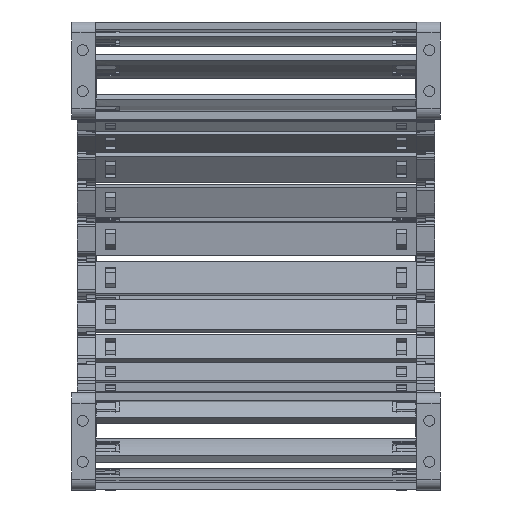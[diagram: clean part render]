
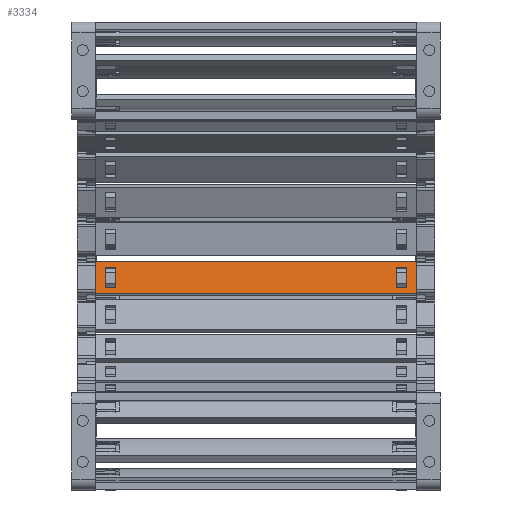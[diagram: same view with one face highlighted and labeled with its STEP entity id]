
A CAD part, left-side view. The second image highlights one B-rep face of the part: STEP entity #3334.
In plain terms, the highlighted planar face has unit normal (-0.988, 0, 0.156) as drawn and (0, 0, -1) by its records, which use the part's own axes.
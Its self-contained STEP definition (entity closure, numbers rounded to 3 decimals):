
#2814=DIRECTION('',(-1.,0.,0.));
#2815=VECTOR('',#2814,18.);
#2816=CARTESIAN_POINT('',(9.,-150.75,0.));
#2817=LINE('',#2816,#2815);
#2852=DIRECTION('',(0.,1.,0.));
#2853=VECTOR('',#2852,5.56);
#2854=CARTESIAN_POINT('',(-5.55,14.2,0.));
#2855=LINE('',#2854,#2853);
#2856=DIRECTION('',(1.,0.,0.));
#2857=VECTOR('',#2856,11.1);
#2858=CARTESIAN_POINT('',(-5.55,19.76,0.));
#2859=LINE('',#2858,#2857);
#2860=DIRECTION('',(0.,-1.,0.));
#2861=VECTOR('',#2860,5.56);
#2862=CARTESIAN_POINT('',(5.55,19.76,0.));
#2863=LINE('',#2862,#2861);
#2864=DIRECTION('',(-1.,0.,0.));
#2865=VECTOR('',#2864,11.1);
#2866=CARTESIAN_POINT('',(5.55,14.2,0.));
#2867=LINE('',#2866,#2865);
#2872=DIRECTION('',(1.,0.,0.));
#2873=VECTOR('',#2872,18.);
#2874=CARTESIAN_POINT('',(-9.,25.25,0.));
#2875=LINE('',#2874,#2873);
#2906=DIRECTION('',(0.,1.,0.));
#2907=VECTOR('',#2906,176.);
#2908=CARTESIAN_POINT('',(-9.,-150.75,0.));
#2909=LINE('',#2908,#2907);
#3035=DIRECTION('',(0.,-1.,0.));
#3036=VECTOR('',#3035,176.);
#3037=CARTESIAN_POINT('',(9.,25.25,0.));
#3038=LINE('',#3037,#3036);
#3100=DIRECTION('',(0.,-1.,0.));
#3101=VECTOR('',#3100,5.56);
#3102=CARTESIAN_POINT('',(-5.55,-139.7,0.));
#3103=LINE('',#3102,#3101);
#3112=DIRECTION('',(0.,1.,0.));
#3113=VECTOR('',#3112,5.56);
#3114=CARTESIAN_POINT('',(5.55,-145.26,0.));
#3115=LINE('',#3114,#3113);
#3124=DIRECTION('',(1.,0.,0.));
#3125=VECTOR('',#3124,11.1);
#3126=CARTESIAN_POINT('',(-5.55,-145.26,0.));
#3127=LINE('',#3126,#3125);
#3136=DIRECTION('',(-1.,0.,0.));
#3137=VECTOR('',#3136,11.1);
#3138=CARTESIAN_POINT('',(5.55,-139.7,0.));
#3139=LINE('',#3138,#3137);
#3188=CARTESIAN_POINT('',(9.,-150.75,0.));
#3189=CARTESIAN_POINT('',(-9.,-150.75,0.));
#3190=VERTEX_POINT('',#3188);
#3191=VERTEX_POINT('',#3189);
#3212=CARTESIAN_POINT('',(-5.55,-139.7,0.));
#3213=CARTESIAN_POINT('',(-5.55,-145.26,0.));
#3214=VERTEX_POINT('',#3212);
#3215=VERTEX_POINT('',#3213);
#3216=CARTESIAN_POINT('',(5.55,-139.7,0.));
#3217=VERTEX_POINT('',#3216);
#3218=CARTESIAN_POINT('',(5.55,-145.26,0.));
#3219=VERTEX_POINT('',#3218);
#3244=CARTESIAN_POINT('',(-9.,25.25,0.));
#3245=CARTESIAN_POINT('',(9.,25.25,0.));
#3246=VERTEX_POINT('',#3244);
#3247=VERTEX_POINT('',#3245);
#3248=CARTESIAN_POINT('',(-5.55,14.2,0.));
#3249=CARTESIAN_POINT('',(-5.55,19.76,0.));
#3250=VERTEX_POINT('',#3248);
#3251=VERTEX_POINT('',#3249);
#3252=CARTESIAN_POINT('',(5.55,19.76,0.));
#3253=VERTEX_POINT('',#3252);
#3254=CARTESIAN_POINT('',(5.55,14.2,0.));
#3255=VERTEX_POINT('',#3254);
#3300=CARTESIAN_POINT('',(8.,-150.75,0.));
#3301=DIRECTION('',(0.,0.,-1.));
#3302=DIRECTION('',(-1.,0.,0.));
#3303=AXIS2_PLACEMENT_3D('',#3300,#3301,#3302);
#3304=PLANE('',#3303);
#3306=ORIENTED_EDGE('',*,*,#3305,.F.);
#3308=ORIENTED_EDGE('',*,*,#3307,.F.);
#3309=ORIENTED_EDGE('',*,*,#3273,.F.);
#3311=ORIENTED_EDGE('',*,*,#3310,.F.);
#3312=EDGE_LOOP('',(#3306,#3308,#3309,#3311));
#3313=FACE_OUTER_BOUND('',#3312,.F.);
#3315=ORIENTED_EDGE('',*,*,#3314,.T.);
#3317=ORIENTED_EDGE('',*,*,#3316,.T.);
#3319=ORIENTED_EDGE('',*,*,#3318,.T.);
#3321=ORIENTED_EDGE('',*,*,#3320,.T.);
#3322=EDGE_LOOP('',(#3315,#3317,#3319,#3321));
#3323=FACE_BOUND('',#3322,.F.);
#3325=ORIENTED_EDGE('',*,*,#3324,.F.);
#3327=ORIENTED_EDGE('',*,*,#3326,.F.);
#3329=ORIENTED_EDGE('',*,*,#3328,.F.);
#3331=ORIENTED_EDGE('',*,*,#3330,.F.);
#3332=EDGE_LOOP('',(#3325,#3327,#3329,#3331));
#3333=FACE_BOUND('',#3332,.F.);
#3334=ADVANCED_FACE('',(#3313,#3323,#3333),#3304,.T.);
#3273=EDGE_CURVE('',#3190,#3191,#2817,.T.);
#3305=EDGE_CURVE('',#3246,#3247,#2875,.T.);
#3307=EDGE_CURVE('',#3191,#3246,#2909,.T.);
#3310=EDGE_CURVE('',#3247,#3190,#3038,.T.);
#3314=EDGE_CURVE('',#3250,#3251,#2855,.T.);
#3316=EDGE_CURVE('',#3251,#3253,#2859,.T.);
#3318=EDGE_CURVE('',#3253,#3255,#2863,.T.);
#3320=EDGE_CURVE('',#3255,#3250,#2867,.T.);
#3324=EDGE_CURVE('',#3214,#3215,#3103,.T.);
#3326=EDGE_CURVE('',#3217,#3214,#3139,.T.);
#3328=EDGE_CURVE('',#3219,#3217,#3115,.T.);
#3330=EDGE_CURVE('',#3215,#3219,#3127,.T.);
